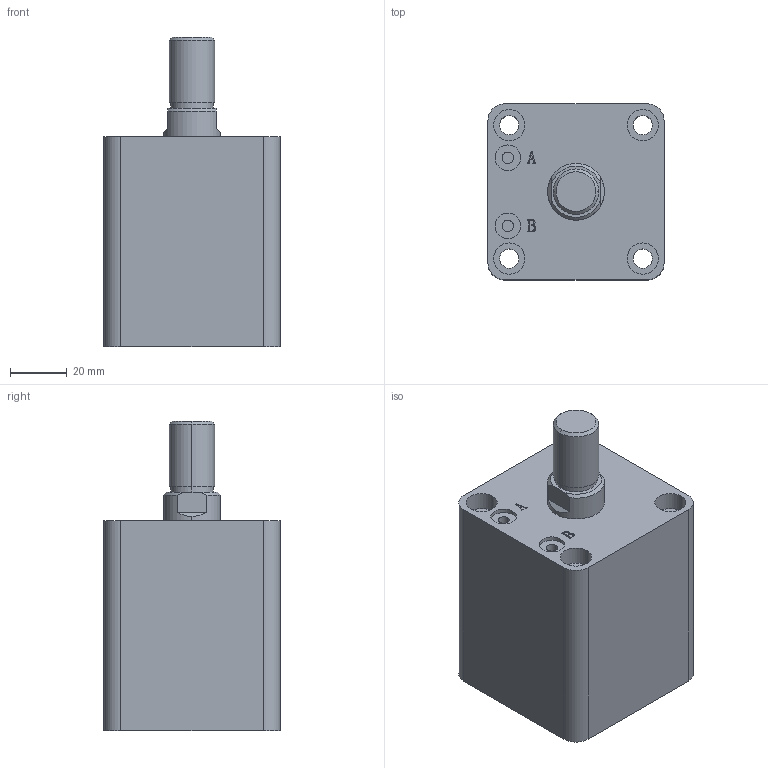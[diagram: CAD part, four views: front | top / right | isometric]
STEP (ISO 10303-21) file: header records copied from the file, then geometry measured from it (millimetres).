
FILE_DESCRIPTION (( 'STEP AP203' ), '1' );
FILE_NAME ('HTB-SDMA32-20W.STEP', '2019-10-07T11:39:01', ( '微软用户' ), ( '微软中国' ), 'SwSTEP 2.0', 'SolidWorks 2012', '' );
FILE_SCHEMA (( 'CONFIG_CONTROL_DESIGN' ));
Length unit declared in the file: millimetre
Products named in the file (3): HTB-SDMA32-20W; HTB-SDMA32-20W活塞杆; HTB-SDMA32-20掛极
Assembly tree (2 placements, depth 2):
  HTB-SDMA32-20W
    HTB-SDMA32-20掛极
    HTB-SDMA32-20W活塞杆
Bounding box: 62 x 62 x 109 mm (x, y, z)
Volume: 266000.7 mm3; surface area: 46881.8 mm2
Topology: 2 solids, 2 shells, 141 faces, 337 edges, 222 vertices
Faces by surface type: plane 67, cylinder 48, bspline 16, torus 6, cone 4
Entity records: 5176 total; most frequent: CARTESIAN_POINT 1593, ORIENTED_EDGE 674, DIRECTION 669, EDGE_CURVE 337, AXIS2_PLACEMENT_3D 242, VERTEX_POINT 222, VECTOR 185, LINE 185
